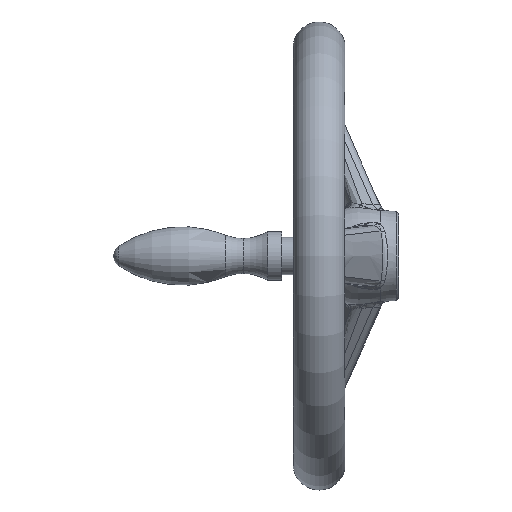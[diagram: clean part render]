
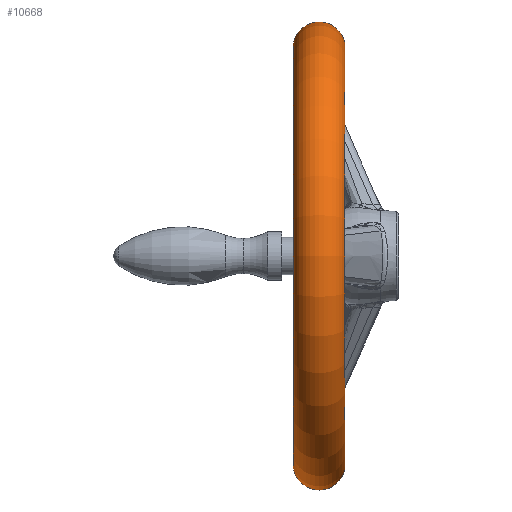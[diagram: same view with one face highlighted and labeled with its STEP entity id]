
A CAD part, left-side view. The second image highlights one B-rep face of the part: STEP entity #10668.
In plain terms, the highlighted toroidal (fillet/blend) face has major radius 88.778 mm and minor radius 11.222 mm.
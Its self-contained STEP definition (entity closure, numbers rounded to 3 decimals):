
#1610 = FACE_OUTER_BOUND ( 'NONE', #10611, .T. ) ;
#1614 = AXIS2_PLACEMENT_3D ( 'NONE', #1617, #1616, #1648 ) ;
#1616 = DIRECTION ( 'NONE',  ( 0., -1., 0. ) ) ;
#1617 = CARTESIAN_POINT ( 'NONE',  ( 0., 34., 0. ) ) ;
#1623 = TOROIDAL_SURFACE ( 'NONE', #1614, 88.778, 11.222 ) ;
#1648 = DIRECTION ( 'NONE',  ( 0., 0., -1. ) ) ;
#5922 = VERTEX_POINT ( 'NONE', #12190 ) ;
#8402 = CIRCLE ( 'NONE', #8463, 11.222 ) ;
#8460 = DIRECTION ( 'NONE',  ( 0., 0., 1. ) ) ;
#8461 = DIRECTION ( 'NONE',  ( -1., 0., 0. ) ) ;
#8462 = CARTESIAN_POINT ( 'NONE',  ( 0., 34., -88.778 ) ) ;
#8463 = AXIS2_PLACEMENT_3D ( 'NONE', #8462, #8461, #8460 ) ;
#10611 = EDGE_LOOP ( 'NONE', ( #10670, #10706, #10720, #10710 ) ) ;
#10668 = ADVANCED_FACE ( 'NONE', ( #1610 ), #1623, .T. ) ;
#10670 = ORIENTED_EDGE ( 'NONE', *, *, #25267, .F. ) ;
#10706 = ORIENTED_EDGE ( 'NONE', *, *, #26386, .T. ) ;
#10710 = ORIENTED_EDGE ( 'NONE', *, *, #25904, .F. ) ;
#10720 = ORIENTED_EDGE ( 'NONE', *, *, #17450, .T. ) ;
#12190 = CARTESIAN_POINT ( 'NONE',  ( 0., 23., -91. ) ) ;
#17450 = EDGE_CURVE ( 'NONE', #26376, #5922, #8402, .T. ) ;
#21211 = DIRECTION ( 'NONE',  ( 0., 0., -1. ) ) ;
#21212 = DIRECTION ( 'NONE',  ( 1., 0., 0. ) ) ;
#21213 = CARTESIAN_POINT ( 'NONE',  ( 0., 34., 88.778 ) ) ;
#21214 = AXIS2_PLACEMENT_3D ( 'NONE', #21213, #21212, #21211 ) ;
#21215 = CIRCLE ( 'NONE', #21214, 11.222 ) ;
#21309 = CARTESIAN_POINT ( 'NONE',  ( 0., 23., 91. ) ) ;
#21319 = CARTESIAN_POINT ( 'NONE',  ( 0., 45., -91. ) ) ;
#21321 = DIRECTION ( 'NONE',  ( 0., 0., -1. ) ) ;
#21322 = DIRECTION ( 'NONE',  ( 0., -1., 0. ) ) ;
#21323 = AXIS2_PLACEMENT_3D ( 'NONE', #21328, #21322, #21321 ) ;
#21328 = CARTESIAN_POINT ( 'NONE',  ( 0., 23., 0. ) ) ;
#21336 = CIRCLE ( 'NONE', #21323, 91. ) ;
#21345 = DIRECTION ( 'NONE',  ( 0., 0., -1. ) ) ;
#21346 = DIRECTION ( 'NONE',  ( 0., -1., 0. ) ) ;
#21347 = AXIS2_PLACEMENT_3D ( 'NONE', #21351, #21346, #21345 ) ;
#21351 = CARTESIAN_POINT ( 'NONE',  ( 0., 45., 0. ) ) ;
#21356 = CARTESIAN_POINT ( 'NONE',  ( 0., 45., 91. ) ) ;
#21357 = CIRCLE ( 'NONE', #21347, 91. ) ;
#25267 = EDGE_CURVE ( 'NONE', #26399, #25898, #21215, .T. ) ;
#25898 = VERTEX_POINT ( 'NONE', #21309 ) ;
#25904 = EDGE_CURVE ( 'NONE', #25898, #5922, #21336, .T. ) ;
#26376 = VERTEX_POINT ( 'NONE', #21319 ) ;
#26386 = EDGE_CURVE ( 'NONE', #26399, #26376, #21357, .T. ) ;
#26399 = VERTEX_POINT ( 'NONE', #21356 ) ;
